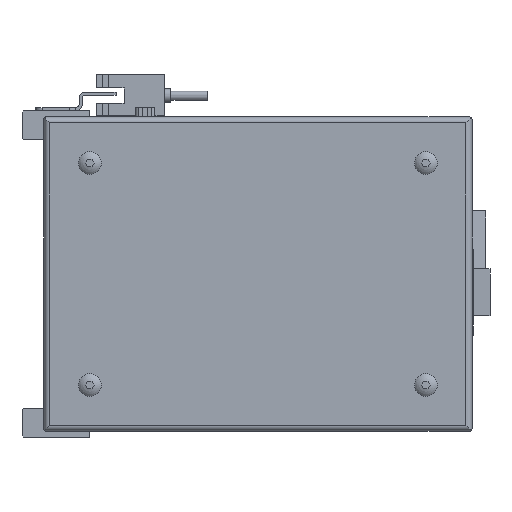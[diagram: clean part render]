
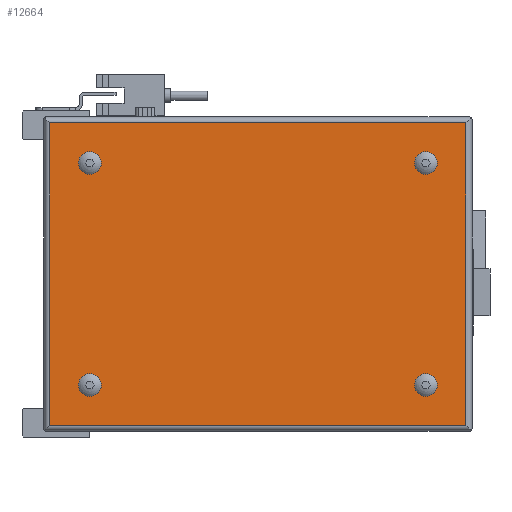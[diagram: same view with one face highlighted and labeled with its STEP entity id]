
A CAD part, left-side view. The second image highlights one B-rep face of the part: STEP entity #12664.
In plain terms, the highlighted planar face has unit normal (-1, 0, 0).
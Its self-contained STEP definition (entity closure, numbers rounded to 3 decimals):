
#350=PLANE('',#13581);
#1078=LINE('',#19243,#2373);
#1079=LINE('',#19246,#2374);
#1080=LINE('',#19248,#2375);
#1081=LINE('',#19250,#2376);
#2373=VECTOR('',#15494,1000.);
#2374=VECTOR('',#15495,1000.);
#2375=VECTOR('',#15496,1000.);
#2376=VECTOR('',#15497,1000.);
#4243=ORIENTED_EDGE('',*,*,#7412,.F.);
#4244=ORIENTED_EDGE('',*,*,#7413,.F.);
#4245=ORIENTED_EDGE('',*,*,#7414,.F.);
#4246=ORIENTED_EDGE('',*,*,#7415,.F.);
#4247=ORIENTED_EDGE('',*,*,#7416,.T.);
#4248=ORIENTED_EDGE('',*,*,#7417,.F.);
#4249=ORIENTED_EDGE('',*,*,#7418,.F.);
#4250=ORIENTED_EDGE('',*,*,#7419,.T.);
#7412=EDGE_CURVE('',#9088,#9088,#10104,.F.);
#7413=EDGE_CURVE('',#9089,#9089,#10105,.F.);
#7414=EDGE_CURVE('',#9090,#9090,#10106,.F.);
#7415=EDGE_CURVE('',#9091,#9091,#10107,.F.);
#7416=EDGE_CURVE('',#9092,#9093,#1078,.F.);
#7417=EDGE_CURVE('',#9094,#9093,#1079,.T.);
#7418=EDGE_CURVE('',#9095,#9094,#1080,.F.);
#7419=EDGE_CURVE('',#9095,#9092,#1081,.T.);
#9088=VERTEX_POINT('',#19236);
#9089=VERTEX_POINT('',#19238);
#9090=VERTEX_POINT('',#19240);
#9091=VERTEX_POINT('',#19242);
#9092=VERTEX_POINT('',#19244);
#9093=VERTEX_POINT('',#19245);
#9094=VERTEX_POINT('',#19247);
#9095=VERTEX_POINT('',#19249);
#10104=CIRCLE('',#13582,3.7);
#10105=CIRCLE('',#13583,3.7);
#10106=CIRCLE('',#13584,3.7);
#10107=CIRCLE('',#13585,3.7);
#10665=EDGE_LOOP('',(#4243));
#10666=EDGE_LOOP('',(#4244));
#10667=EDGE_LOOP('',(#4245));
#10668=EDGE_LOOP('',(#4246));
#10669=EDGE_LOOP('',(#4247,#4248,#4249,#4250));
#11590=FACE_BOUND('',#10665,.T.);
#11591=FACE_BOUND('',#10666,.T.);
#11592=FACE_BOUND('',#10667,.T.);
#11593=FACE_BOUND('',#10668,.T.);
#11594=FACE_BOUND('',#10669,.T.);
#12664=ADVANCED_FACE('',(#11590,#11591,#11592,#11593,#11594),#350,.F.);
#13581=AXIS2_PLACEMENT_3D('',#19234,#15484,#15485);
#13582=AXIS2_PLACEMENT_3D('',#19235,#15486,#15487);
#13583=AXIS2_PLACEMENT_3D('',#19237,#15488,#15489);
#13584=AXIS2_PLACEMENT_3D('',#19239,#15490,#15491);
#13585=AXIS2_PLACEMENT_3D('',#19241,#15492,#15493);
#15484=DIRECTION('',(1.,0.,0.));
#15485=DIRECTION('',(0.,0.,-1.));
#15486=DIRECTION('',(1.,0.,0.));
#15487=DIRECTION('',(0.,0.,-1.));
#15488=DIRECTION('',(1.,0.,0.));
#15489=DIRECTION('',(0.,0.,-1.));
#15490=DIRECTION('',(1.,0.,0.));
#15491=DIRECTION('',(0.,0.,-1.));
#15492=DIRECTION('',(1.,0.,0.));
#15493=DIRECTION('',(0.,0.,-1.));
#15494=DIRECTION('',(0.,-1.,0.));
#15495=DIRECTION('',(0.,0.,1.));
#15496=DIRECTION('',(0.,-1.,0.));
#15497=DIRECTION('',(0.,0.,1.));
#19234=CARTESIAN_POINT('',(-52.,-75.,50.));
#19235=CARTESIAN_POINT('',(-52.,-61.,36.));
#19236=CARTESIAN_POINT('',(-52.,-61.,32.3));
#19237=CARTESIAN_POINT('',(-52.,-61.,-36.));
#19238=CARTESIAN_POINT('',(-52.,-61.,-39.7));
#19239=CARTESIAN_POINT('',(-52.,48.,36.));
#19240=CARTESIAN_POINT('',(-52.,48.,32.3));
#19241=CARTESIAN_POINT('',(-52.,48.,-36.));
#19242=CARTESIAN_POINT('',(-52.,48.,-39.7));
#19243=CARTESIAN_POINT('',(-52.,139.,49.));
#19244=CARTESIAN_POINT('',(-52.,-74.,49.));
#19245=CARTESIAN_POINT('',(-52.,61.,49.));
#19246=CARTESIAN_POINT('',(-52.,61.,-102.));
#19247=CARTESIAN_POINT('',(-52.,61.,-49.));
#19248=CARTESIAN_POINT('',(-52.,139.,-49.));
#19249=CARTESIAN_POINT('',(-52.,-74.,-49.));
#19250=CARTESIAN_POINT('',(-52.,-74.,-102.));
